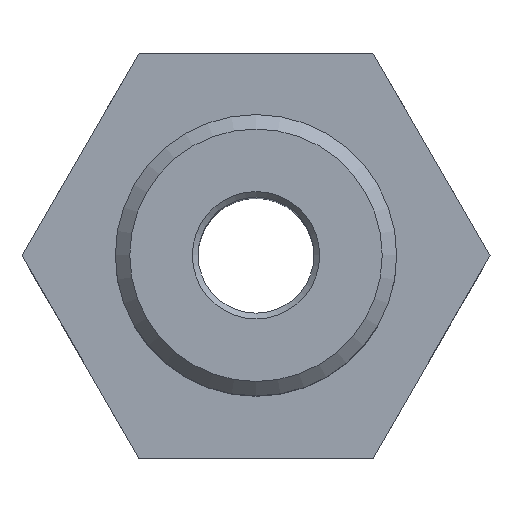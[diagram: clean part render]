
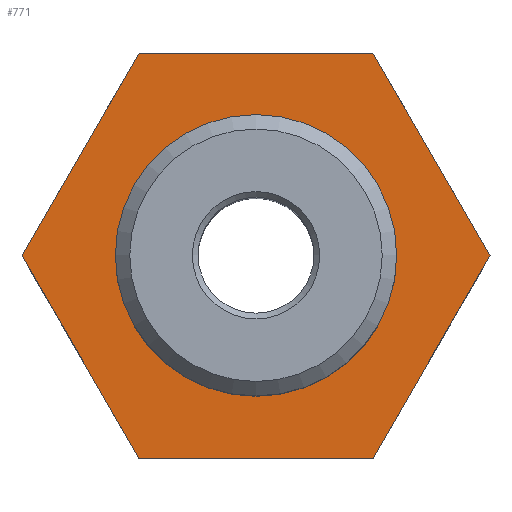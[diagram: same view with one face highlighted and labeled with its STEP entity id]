
A CAD part, top view. The second image highlights one B-rep face of the part: STEP entity #771.
In plain terms, the highlighted planar face has unit normal (0, 0, 1).
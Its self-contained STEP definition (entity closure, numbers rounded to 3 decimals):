
#356=CARTESIAN_POINT('',(8.083,0.,14.));
#357=VERTEX_POINT('',#356);
#364=CARTESIAN_POINT('',(4.041,-7.,14.));
#365=VERTEX_POINT('',#364);
#366=CARTESIAN_POINT('',(8.083,0.,14.));
#367=DIRECTION('',(-0.5,-0.866,0.0));
#368=VECTOR('',#367,8.083);
#369=LINE('',#366,#368);
#370=EDGE_CURVE('',#357,#365,#369,.T.);
#401=CARTESIAN_POINT('',(-4.041,7.,14.));
#402=VERTEX_POINT('',#401);
#409=CARTESIAN_POINT('',(4.041,7.,14.));
#410=VERTEX_POINT('',#409);
#411=CARTESIAN_POINT('',(-4.041,7.,14.));
#412=DIRECTION('',(1.0,0.0,0.0));
#413=VECTOR('',#412,8.083);
#414=LINE('',#411,#413);
#415=EDGE_CURVE('',#402,#410,#414,.T.);
#599=CARTESIAN_POINT('',(4.86,0.,14.));
#600=VERTEX_POINT('',#599);
#601=CARTESIAN_POINT('',(0.,0.,14.));
#602=DIRECTION('',(0.0,0.0,-1.0));
#603=DIRECTION('',(-1.0,0.0,0.0));
#604=AXIS2_PLACEMENT_3D('',#601,#602,#603);
#605=CIRCLE('',#604,4.86);
#606=EDGE_CURVE('',#600,#600,#605,.T.);
#672=CARTESIAN_POINT('',(-4.041,-7.,14.));
#673=VERTEX_POINT('',#672);
#674=CARTESIAN_POINT('',(4.041,-7.,14.));
#675=DIRECTION('',(-1.0,0.0,0.0));
#676=VECTOR('',#675,8.083);
#677=LINE('',#674,#676);
#678=EDGE_CURVE('',#365,#673,#677,.T.);
#698=CARTESIAN_POINT('',(-8.083,0.,14.));
#699=VERTEX_POINT('',#698);
#700=CARTESIAN_POINT('',(-4.041,-7.,14.));
#701=DIRECTION('',(-0.5,0.866,0.0));
#702=VECTOR('',#701,8.083);
#703=LINE('',#700,#702);
#704=EDGE_CURVE('',#673,#699,#703,.T.);
#724=CARTESIAN_POINT('',(-8.083,0.,14.));
#725=DIRECTION('',(0.5,0.866,0.0));
#726=VECTOR('',#725,8.083);
#727=LINE('',#724,#726);
#728=EDGE_CURVE('',#699,#402,#727,.T.);
#743=CARTESIAN_POINT('',(4.041,7.,14.));
#744=DIRECTION('',(0.5,-0.866,0.0));
#745=VECTOR('',#744,8.083);
#746=LINE('',#743,#745);
#747=EDGE_CURVE('',#410,#357,#746,.T.);
#755=CARTESIAN_POINT('',(0.,0.,14.));
#756=DIRECTION('',(0.0,0.0,1.0));
#757=DIRECTION('',(1.0,0.0,0.0));
#758=AXIS2_PLACEMENT_3D('',#755,#756,#757);
#759=PLANE('',#758);
#760=ORIENTED_EDGE('',*,*,#678,.F.);
#761=ORIENTED_EDGE('',*,*,#370,.F.);
#762=ORIENTED_EDGE('',*,*,#747,.F.);
#763=ORIENTED_EDGE('',*,*,#415,.F.);
#764=ORIENTED_EDGE('',*,*,#728,.F.);
#765=ORIENTED_EDGE('',*,*,#704,.F.);
#766=EDGE_LOOP('',(#760,#761,#762,#763,#764,#765));
#767=FACE_OUTER_BOUND('',#766,.T.);
#768=ORIENTED_EDGE('',*,*,#606,.T.);
#769=EDGE_LOOP('',(#768));
#770=FACE_BOUND('',#769,.T.);
#771=ADVANCED_FACE('',(#767,#770),#759,.T.);
